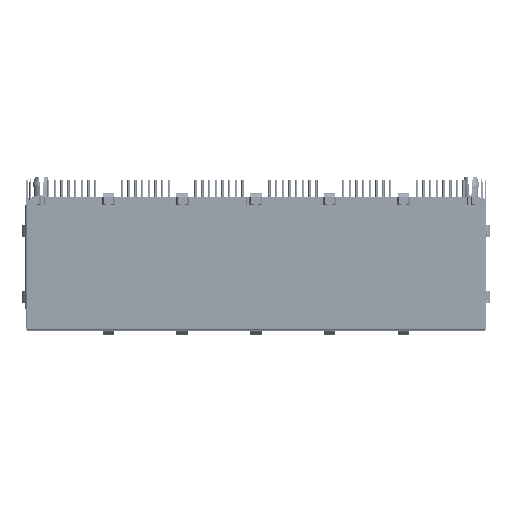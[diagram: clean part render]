
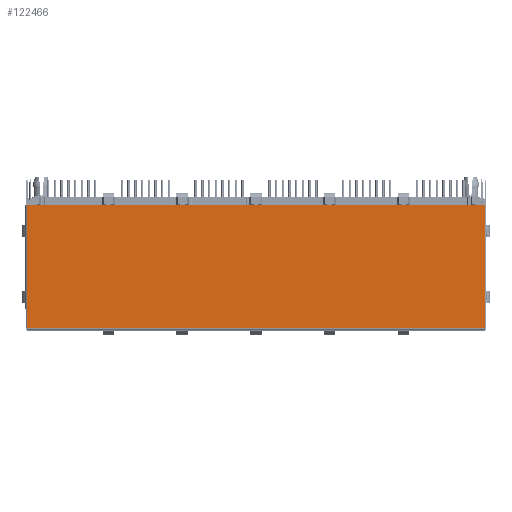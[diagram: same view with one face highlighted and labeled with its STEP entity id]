
A CAD part, top view. The second image highlights one B-rep face of the part: STEP entity #122466.
In plain terms, the highlighted planar face has unit normal (0, 0, 1) as drawn and (0, 0, -1) by its records, which use the part's own axes.
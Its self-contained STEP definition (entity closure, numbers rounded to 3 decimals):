
#94078=DIRECTION('',(0.,-1.,0.));
#94079=VECTOR('',#94078,23.45);
#94080=CARTESIAN_POINT('',(100.5,27.76,-28.1));
#94081=LINE('',#94080,#94079);
#94261=DIRECTION('',(-1.,0.,0.));
#94262=VECTOR('',#94261,86.72);
#94263=CARTESIAN_POINT('',(100.5,4.31,-28.1));
#94264=LINE('',#94263,#94262);
#94265=DIRECTION('',(-1.,0.,0.));
#94266=VECTOR('',#94265,86.72);
#94267=CARTESIAN_POINT('',(100.5,27.76,-28.1));
#94268=LINE('',#94267,#94266);
#94274=DIRECTION('',(0.,-1.,0.));
#94275=VECTOR('',#94274,23.45);
#94276=CARTESIAN_POINT('',(13.78,27.76,-28.1));
#94277=LINE('',#94276,#94275);
#98789=CARTESIAN_POINT('',(100.5,27.76,-28.1));
#98790=CARTESIAN_POINT('',(100.5,4.31,-28.1));
#98791=VERTEX_POINT('',#98789);
#98792=VERTEX_POINT('',#98790);
#98877=CARTESIAN_POINT('',(13.78,27.76,-28.1));
#98878=CARTESIAN_POINT('',(13.78,4.31,-28.1));
#98879=VERTEX_POINT('',#98877);
#98880=VERTEX_POINT('',#98878);
#122454=CARTESIAN_POINT('',(100.5,27.76,-28.1));
#122455=DIRECTION('',(0.,0.,-1.));
#122456=DIRECTION('',(0.,-1.,0.));
#122457=AXIS2_PLACEMENT_3D('',#122454,#122455,#122456);
#122458=PLANE('',#122457);
#122459=ORIENTED_EDGE('',*,*,#122174,.F.);
#122460=ORIENTED_EDGE('',*,*,#121974,.T.);
#122462=ORIENTED_EDGE('',*,*,#122461,.T.);
#122463=ORIENTED_EDGE('',*,*,#122447,.F.);
#122464=EDGE_LOOP('',(#122459,#122460,#122462,#122463));
#122465=FACE_OUTER_BOUND('',#122464,.F.);
#122466=ADVANCED_FACE('',(#122465),#122458,.T.);
#121974=EDGE_CURVE('',#98791,#98879,#94268,.T.);
#122174=EDGE_CURVE('',#98791,#98792,#94081,.T.);
#122447=EDGE_CURVE('',#98792,#98880,#94264,.T.);
#122461=EDGE_CURVE('',#98879,#98880,#94277,.T.);
